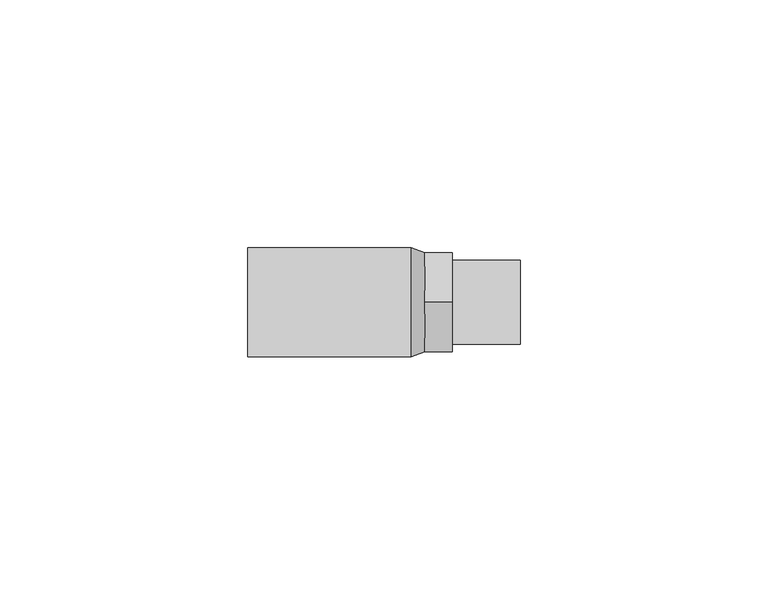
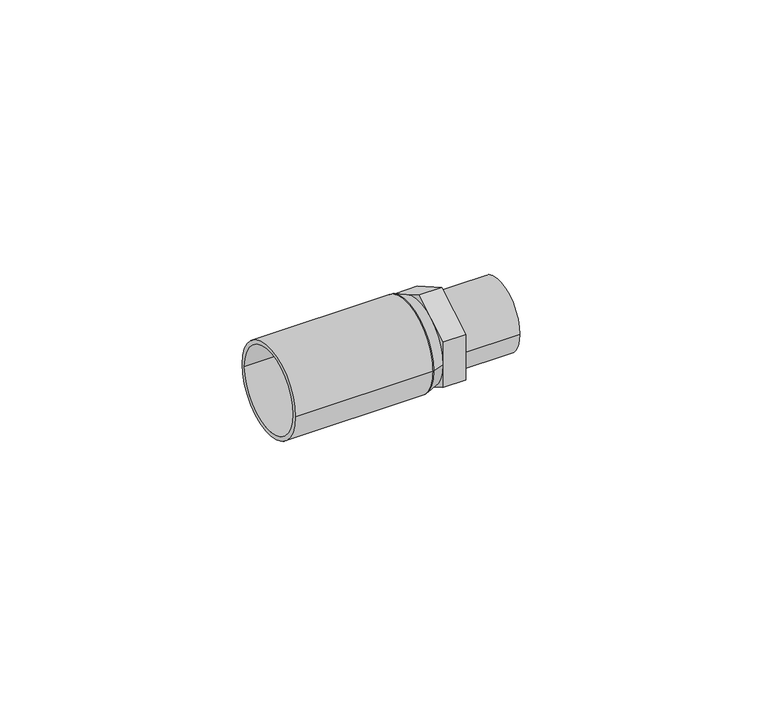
"""IFC4 building model written with IfcOpenShell, lengths in millimetres: pipe fitting geometry, VALTEC_VTi.906.I_Вставка с наружной резьбой нержавеющая сталь : VTi.906.I."""

from ifc_helpers import new_model, si_unit, point, frame, origin, origin_2d, place, context, project, spatial, polyline, circle_curve, trimmed, segment, composite_curve, outline, extrude, source, transform, mapped, element, save
from ifc_brep_helpers import plane_surface, revolved_surface, advanced_brep


def pipe_fitting_3a80665a(model_context):
    return source(origin(), model_context, "Body", "SolidModel", [
        extrude(outline(composite_curve([segment(trimmed(circle_curve(origin_2d(), 8.5), [point((-8.5, 0.0))], [point((8.5, 0.0))], False, "CARTESIAN"), True, "CONTINUOUS"), segment(trimmed(circle_curve(origin_2d(), 8.5), [point((8.5, 0.0))], [point((-8.5, 0.0))], False, "CARTESIAN"), True, "CONTINUOUS")], self_intersect=False), holes=[composite_curve([segment(trimmed(circle_curve(origin_2d(), 7.5), [point((-7.5, 0.0))], [point((7.5, 0.0))], True, "CARTESIAN"), True, "CONTINUOUS"), segment(trimmed(circle_curve(origin_2d(), 7.5), [point((7.5, 0.0))], [point((-7.5, 0.0))], True, "CARTESIAN"), True, "CONTINUOUS")], self_intersect=False)]), frame((41.25, 0.0, 0.0), z_axis=(1.0, 0.0, 0.0), x_axis=(0.0, 1.0, 0.0)), (0.0, 0.0, 1.0), 13.75),
        advanced_brep(
        [(35.75, -10.0, 0.0), (35.75, 10.0, 0.0), (33.0, -11.0, 0.0), (33.0, 11.0, 0.0)],
        [
            (0, 1, circle_curve(frame((35.75, 0.0, 0.0), z_axis=(1.0, 0.0, 0.0), x_axis=(0.0, -1.0, 0.0)), 10.0)),
            (1, 0, circle_curve(frame((35.75, 0.0, 0.0), z_axis=(1.0, 0.0, 0.0), x_axis=(0.0, 1.0, 0.0)), 10.0)),
            (2, 3, circle_curve(frame((33.0, 0.0, 0.0), z_axis=(-1.0, 0.0, 0.0), x_axis=(0.0, 1.0, 0.0)), 11.0)),
            (3, 2, circle_curve(frame((33.0, 0.0, 0.0), z_axis=(-1.0, 0.0, 0.0), x_axis=(0.0, -1.0, 0.0)), 11.0)),
            (3, 1),
            (0, 2),
        ],
        [
            plane_surface(frame((35.75, 0.0, 0.0), z_axis=(1.0, 0.0, 0.0), x_axis=(0.0, 0.0, -1.0))),
            plane_surface(frame((33.0, 0.0, 0.0), z_axis=(-1.0, 0.0, 0.0), x_axis=(0.0, 0.0, -1.0))),
            revolved_surface(polyline([(35.75, -10.0, 0.0), (33.0, -11.0, 0.0)]), (63.25, 0.0, 0.0), (-1.0, 0.0, 0.0)),
            revolved_surface(polyline([(35.75, 10.0, 0.0), (33.0, 11.0, 0.0)]), (63.25, 0.0, 0.0), (-1.0, 0.0, 0.0)),
        ],
        [
            (0, [[1, 2]]),
            (1, [[3, 4]]),
            (2, [[-4, 5, -1, 6]]),
            (3, [[-3, -6, -2, -5]]),
        ],
    ),
        extrude(outline(polyline([(0.0, 11.5470054), (10.0, 5.7735027), (10.0, -5.7735027), (0.0, -11.5470054), (-10.0, -5.7735027), (-10.0, 5.7735027), (0.0, 11.5470054)]), holes=[composite_curve([segment(trimmed(circle_curve(origin_2d(), 7.5), [point((-7.5, 0.0))], [point((7.5, 0.0))], True, "CARTESIAN"), True, "CONTINUOUS"), segment(trimmed(circle_curve(origin_2d(), 7.5), [point((7.5, 0.0))], [point((-7.5, 0.0))], True, "CARTESIAN"), True, "CONTINUOUS")], self_intersect=False)]), frame((35.75, 0.0, 0.0), z_axis=(1.0, 0.0, 0.0), x_axis=(0.0, 1.0, 0.0)), (0.0, 0.0, 1.0), 5.5),
        extrude(outline(composite_curve([segment(trimmed(circle_curve(origin_2d(), 11.0), [point((-11.0, 0.0))], [point((11.0, 0.0))], False, "CARTESIAN"), True, "CONTINUOUS"), segment(trimmed(circle_curve(origin_2d(), 11.0), [point((11.0, 0.0))], [point((-11.0, 0.0))], False, "CARTESIAN"), True, "CONTINUOUS")], self_intersect=False), holes=[composite_curve([segment(trimmed(circle_curve(origin_2d(), 10.0), [point((-10.0, 0.0))], [point((10.0, 0.0))], True, "CARTESIAN"), True, "CONTINUOUS"), segment(trimmed(circle_curve(origin_2d(), 10.0), [point((10.0, 0.0))], [point((-10.0, 0.0))], True, "CARTESIAN"), True, "CONTINUOUS")], self_intersect=False)]), frame((0.0, 0.0, 0.0), z_axis=(1.0, 0.0, 0.0), x_axis=(0.0, 1.0, 0.0)), (0.0, 0.0, 1.0), 33.0),
    ])


if __name__ == "__main__":
    model = new_model("IFC4")
    model_context = context("Model", 3, world=origin())
    ifc_project = project(units=[si_unit("LENGTHUNIT", "METRE", prefix="MILLI")], contexts=[model_context])
    site = spatial("IfcSite", under=ifc_project)
    building = spatial("IfcBuilding", under=site)
    placement = place(None, origin())
    pipe_fitting_shape = pipe_fitting_3a80665a(model_context)
    element("IfcPipeFitting", 1, ObjectType="VALTEC_VTi.906.I_Вставка с наружной резьбой нержавеющая сталь : VTi.906.I", at=placement, inside=building, context=model_context, shape_type="MappedRepresentation", body=[
        mapped(pipe_fitting_shape, transform((0.0, 0.0, 0.0), x_axis=(1.0, 0.0, 0.0), y_axis=(0.0, 1.0, 0.0), z_axis=(0.0, 0.0, 1.0))),
    ])
    save(model, "model.ifc")
